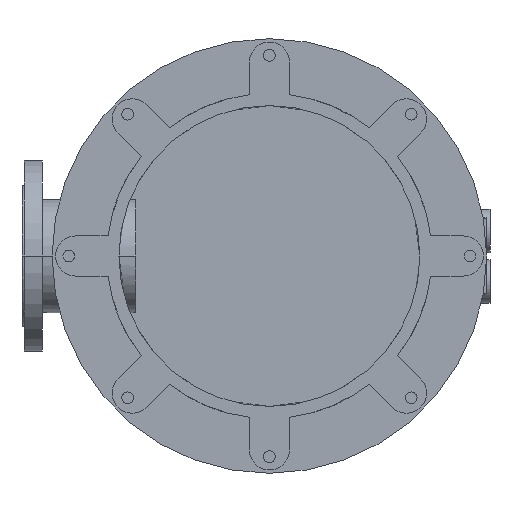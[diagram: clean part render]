
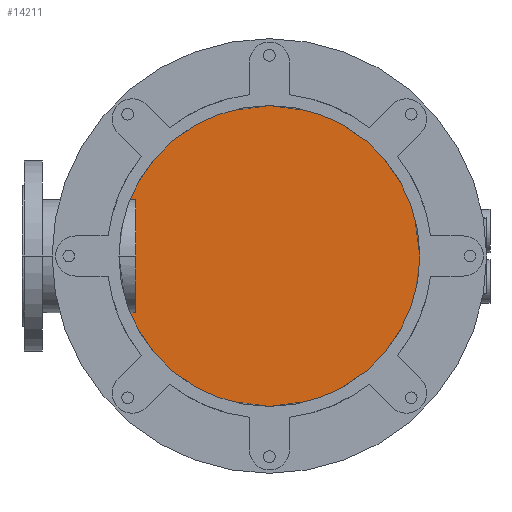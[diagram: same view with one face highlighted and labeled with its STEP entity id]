
A CAD part, front view. The second image highlights one B-rep face of the part: STEP entity #14211.
In plain terms, the highlighted planar face has unit normal (0, -1, 0).
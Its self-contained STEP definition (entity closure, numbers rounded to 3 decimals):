
#2814=CARTESIAN_POINT('',(0.,1004.,0.));
#2815=DIRECTION('',(0.,-1.,0.));
#2816=DIRECTION('',(0.,0.,1.));
#2817=AXIS2_PLACEMENT_3D('',#2814,#2815,#2816);
#2983=CARTESIAN_POINT('',(0.,1004.,0.));
#2984=DIRECTION('',(0.,-1.,0.));
#2985=DIRECTION('',(0.,0.,-1.));
#2986=AXIS2_PLACEMENT_3D('',#2983,#2984,#2985);
#9202=CARTESIAN_POINT('',(0.,1004.,240.));
#9203=CARTESIAN_POINT('',(0.,1004.,-240.));
#9204=VERTEX_POINT('',#9202);
#9205=VERTEX_POINT('',#9203);
#14201=CARTESIAN_POINT('',(0.,1004.,0.));
#14202=DIRECTION('',(0.,1.,0.));
#14203=DIRECTION('',(0.,0.,-1.));
#14204=AXIS2_PLACEMENT_3D('',#14201,#14202,#14203);
#14205=PLANE('',#14204);
#14206=ORIENTED_EDGE('',*,*,#14179,.F.);
#14208=ORIENTED_EDGE('',*,*,#14207,.F.);
#14209=EDGE_LOOP('',(#14206,#14208));
#14210=FACE_OUTER_BOUND('',#14209,.F.);
#14211=ADVANCED_FACE('',(#14210),#14205,.F.);
#2818=CIRCLE('',#2817,240.);
#2987=CIRCLE('',#2986,240.);
#14179=EDGE_CURVE('',#9204,#9205,#2818,.T.);
#14207=EDGE_CURVE('',#9205,#9204,#2987,.T.);
